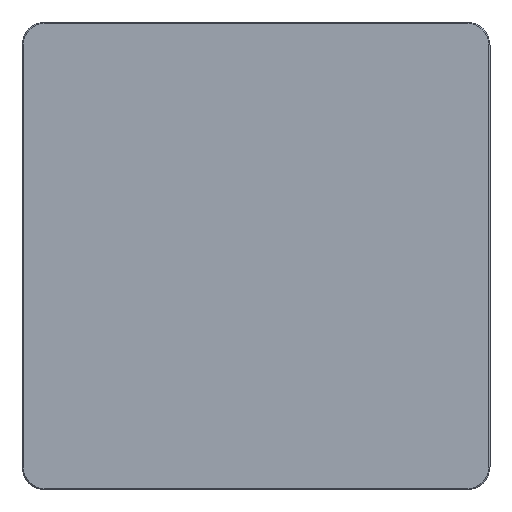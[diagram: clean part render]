
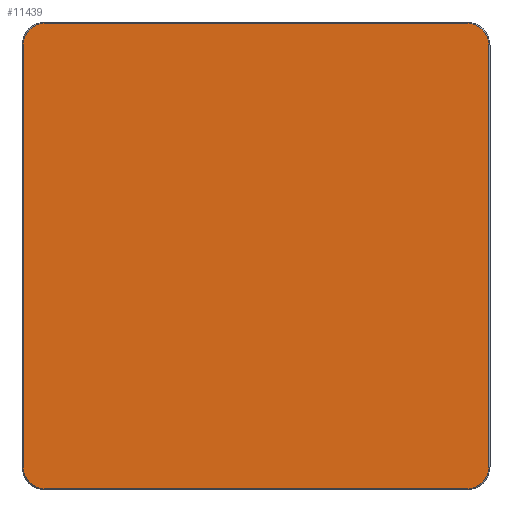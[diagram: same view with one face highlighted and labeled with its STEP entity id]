
A CAD part, top view. The second image highlights one B-rep face of the part: STEP entity #11439.
In plain terms, the highlighted planar face has unit normal (0, 0, 1).
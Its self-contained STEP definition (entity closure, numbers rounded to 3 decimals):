
#11364=CARTESIAN_POINT('',(0.,0.,20.));
#11365=DIRECTION('',(1.,0.,0.));
#11366=DIRECTION('',(0.,0.,1.));
#11367=AXIS2_PLACEMENT_3D('',#11364,#11366,#11365);
#11368=PLANE('',#11367);
#11369=CARTESIAN_POINT('',(-315.,-348.5,20.));
#11370=VERTEX_POINT('',#11369);
#11371=CARTESIAN_POINT('',(315.,-348.5,20.));
#11372=VERTEX_POINT('',#11371);
#11373=CARTESIAN_POINT('',(-315.,-348.5,20.));
#11374=DIRECTION('',(1.,0.,0.));
#11375=VECTOR('',#11374,630.);
#11376=LINE('',#11373,#11375);
#11377=EDGE_CURVE('',#11370,#11372,#11376,.T.);
#11378=ORIENTED_EDGE('E105',*,*,#11377,.T.);
#11379=CARTESIAN_POINT('',(348.5,-315.,20.));
#11380=VERTEX_POINT('',#11379);
#11381=CARTESIAN_POINT('',(315.,-315.,20.));
#11382=DIRECTION('',(0.,-1.,0.));
#11383=DIRECTION('',(0.,-0.,1.));
#11384=AXIS2_PLACEMENT_3D('',#11381,#11383,#11382);
#11385=CIRCLE('',#11384,33.5);
#11386=EDGE_CURVE('',#11372,#11380,#11385,.T.);
#11387=ORIENTED_EDGE('E107',*,*,#11386,.T.);
#11388=CARTESIAN_POINT('',(348.5,315.,20.));
#11389=VERTEX_POINT('',#11388);
#11390=CARTESIAN_POINT('',(348.5,-315.,20.));
#11391=DIRECTION('',(0.,1.,0.));
#11392=VECTOR('',#11391,630.);
#11393=LINE('',#11390,#11392);
#11394=EDGE_CURVE('',#11380,#11389,#11393,.T.);
#11395=ORIENTED_EDGE('E109',*,*,#11394,.T.);
#11396=CARTESIAN_POINT('',(315.,348.5,20.));
#11397=VERTEX_POINT('',#11396);
#11398=CARTESIAN_POINT('',(315.,315.,20.));
#11399=DIRECTION('',(1.,0.,0.));
#11400=DIRECTION('',(0.,0.,1.));
#11401=AXIS2_PLACEMENT_3D('',#11398,#11400,#11399);
#11402=CIRCLE('',#11401,33.5);
#11403=EDGE_CURVE('',#11389,#11397,#11402,.T.);
#11404=ORIENTED_EDGE('E111',*,*,#11403,.T.);
#11405=CARTESIAN_POINT('',(-315.,348.5,20.));
#11406=VERTEX_POINT('',#11405);
#11407=CARTESIAN_POINT('',(315.,348.5,20.));
#11408=DIRECTION('',(-1.,0.,0.));
#11409=VECTOR('',#11408,630.);
#11410=LINE('',#11407,#11409);
#11411=EDGE_CURVE('',#11397,#11406,#11410,.T.);
#11412=ORIENTED_EDGE('E113',*,*,#11411,.T.);
#11413=CARTESIAN_POINT('',(-348.5,315.,20.));
#11414=VERTEX_POINT('',#11413);
#11415=CARTESIAN_POINT('',(-315.,315.,20.));
#11416=DIRECTION('',(0.,1.,0.));
#11417=DIRECTION('',(0.,0.,1.));
#11418=AXIS2_PLACEMENT_3D('',#11415,#11417,#11416);
#11419=CIRCLE('',#11418,33.5);
#11420=EDGE_CURVE('',#11406,#11414,#11419,.T.);
#11421=ORIENTED_EDGE('E115',*,*,#11420,.T.);
#11422=CARTESIAN_POINT('',(-348.5,-315.,20.));
#11423=VERTEX_POINT('',#11422);
#11424=CARTESIAN_POINT('',(-348.5,315.,20.));
#11425=DIRECTION('',(0.,-1.,0.));
#11426=VECTOR('',#11425,630.);
#11427=LINE('',#11424,#11426);
#11428=EDGE_CURVE('',#11414,#11423,#11427,.T.);
#11429=ORIENTED_EDGE('E117',*,*,#11428,.T.);
#11430=CARTESIAN_POINT('',(-315.,-315.,20.));
#11431=DIRECTION('',(-1.,0.,0.));
#11432=DIRECTION('',(0.,0.,1.));
#11433=AXIS2_PLACEMENT_3D('',#11430,#11432,#11431);
#11434=CIRCLE('',#11433,33.5);
#11435=EDGE_CURVE('',#11423,#11370,#11434,.T.);
#11436=ORIENTED_EDGE('E119',*,*,#11435,.T.);
#11437=EDGE_LOOP('',(#11378,#11387,#11395,#11404,#11412,#11421,#11429,#11436));
#11438=FACE_OUTER_BOUND('',#11437,.T.);
#11439=ADVANCED_FACE('F2',(#11438),#11368,.T.);
